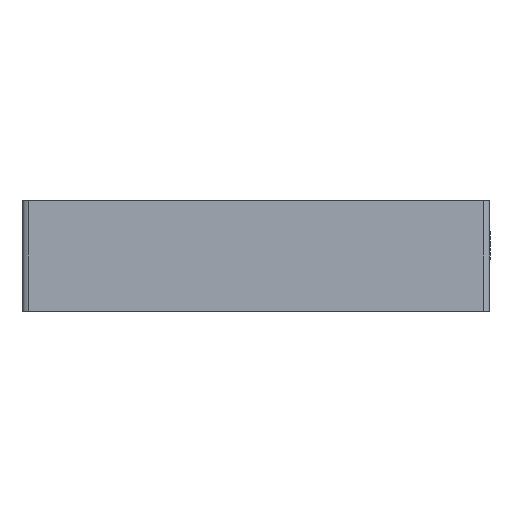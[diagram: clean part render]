
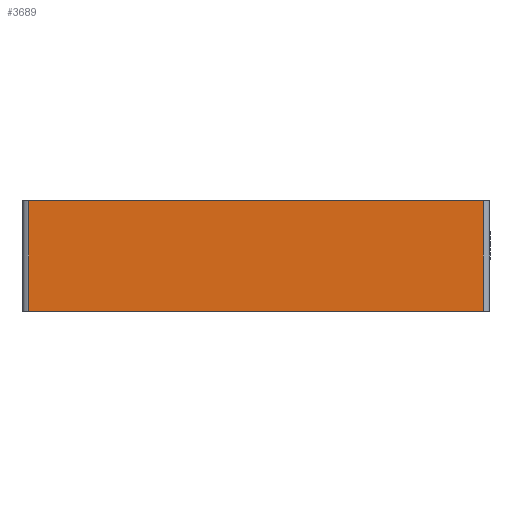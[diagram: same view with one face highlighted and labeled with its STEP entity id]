
A CAD part, left-side view. The second image highlights one B-rep face of the part: STEP entity #3689.
In plain terms, the highlighted planar face has unit normal (-1, 0, 0).
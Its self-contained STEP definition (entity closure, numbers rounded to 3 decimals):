
#2630=CARTESIAN_POINT('',(1265.764,854.785,0.));
#2631=VERTEX_POINT('',#2630);
#2632=CARTESIAN_POINT('',(1265.764,854.785,-24.));
#2633=VERTEX_POINT('',#2632);
#2634=CARTESIAN_POINT('',(1265.764,854.785,0.));
#2635=DIRECTION('',(0.,0.,-1.));
#2636=VECTOR('',#2635,24.);
#2637=LINE('',#2634,#2636);
#2638=EDGE_CURVE('',#2631,#2633,#2637,.T.);
#2960=CARTESIAN_POINT('',(1265.764,953.785,0.));
#2961=VERTEX_POINT('',#2960);
#2969=CARTESIAN_POINT('',(1265.764,953.785,0.));
#2970=DIRECTION('',(0.,-1.,0.));
#2971=VECTOR('',#2970,99.);
#2972=LINE('',#2969,#2971);
#2973=EDGE_CURVE('',#2961,#2631,#2972,.T.);
#3385=CARTESIAN_POINT('',(1265.764,953.785,-24.));
#3386=VERTEX_POINT('',#3385);
#3387=CARTESIAN_POINT('',(1265.764,854.785,-24.));
#3388=DIRECTION('',(0.,1.,0.));
#3389=VECTOR('',#3388,99.);
#3390=LINE('',#3387,#3389);
#3391=EDGE_CURVE('',#2633,#3386,#3390,.T.);
#3673=CARTESIAN_POINT('',(1265.764,926.285,-1.5));
#3674=DIRECTION('',(0.,0.,-1.));
#3675=DIRECTION('',(-1.,-0.,-0.));
#3676=AXIS2_PLACEMENT_3D('',#3673,#3675,#3674);
#3677=PLANE('',#3676);
#3678=ORIENTED_EDGE('',*,*,#3391,.F.);
#3679=ORIENTED_EDGE('',*,*,#2638,.F.);
#3680=ORIENTED_EDGE('',*,*,#2973,.F.);
#3681=CARTESIAN_POINT('',(1265.764,953.785,0.));
#3682=DIRECTION('',(0.,0.,-1.));
#3683=VECTOR('',#3682,24.);
#3684=LINE('',#3681,#3683);
#3685=EDGE_CURVE('',#2961,#3386,#3684,.T.);
#3686=ORIENTED_EDGE('E327',*,*,#3685,.T.);
#3687=EDGE_LOOP('',(#3678,#3679,#3680,#3686));
#3688=FACE_OUTER_BOUND('',#3687,.T.);
#3689=ADVANCED_FACE('F95',(#3688),#3677,.T.);
